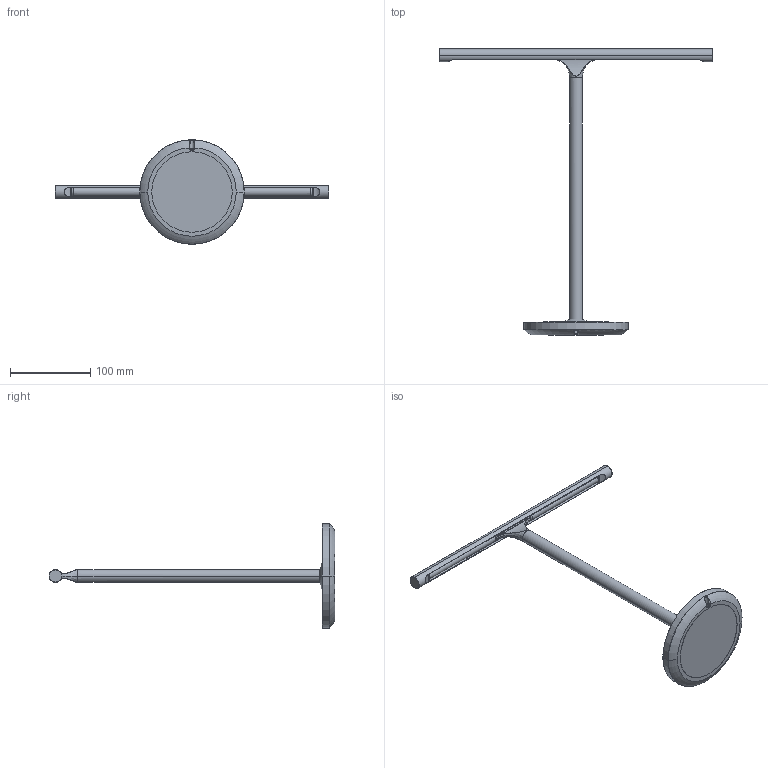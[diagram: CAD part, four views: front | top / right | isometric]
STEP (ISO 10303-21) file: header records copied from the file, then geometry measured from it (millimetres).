
FILE_DESCRIPTION (( 'STEP AP203' ), '1' );
FILE_NAME ('Gallery - 340 Bankers Lamp.STEP', '2024-03-25T02:53:04', ( '' ), ( '' ), 'SwSTEP 2.0', 'SolidWorks 2017', '' );
FILE_SCHEMA (( 'CONFIG_CONTROL_DESIGN' ));
Length unit declared in the file: millimetre
Products named in the file (1): Gallery - 340 Bankers Lamp
Bounding box: 340 x 355.5 x 130 mm (x, y, z)
Volume: 322779.6 mm3; surface area: 77034.1 mm2
Topology: 3 solids, 3 shells, 220 faces, 547 edges, 336 vertices
Faces by surface type: plane 83, cylinder 69, bspline 37, torus 26, sphere 3, cone 2
Entity records: 8802 total; most frequent: CARTESIAN_POINT 3750, ORIENTED_EDGE 1082, DIRECTION 990, EDGE_CURVE 541, AXIS2_PLACEMENT_3D 373, VERTEX_POINT 333, LINE 244, VECTOR 244
